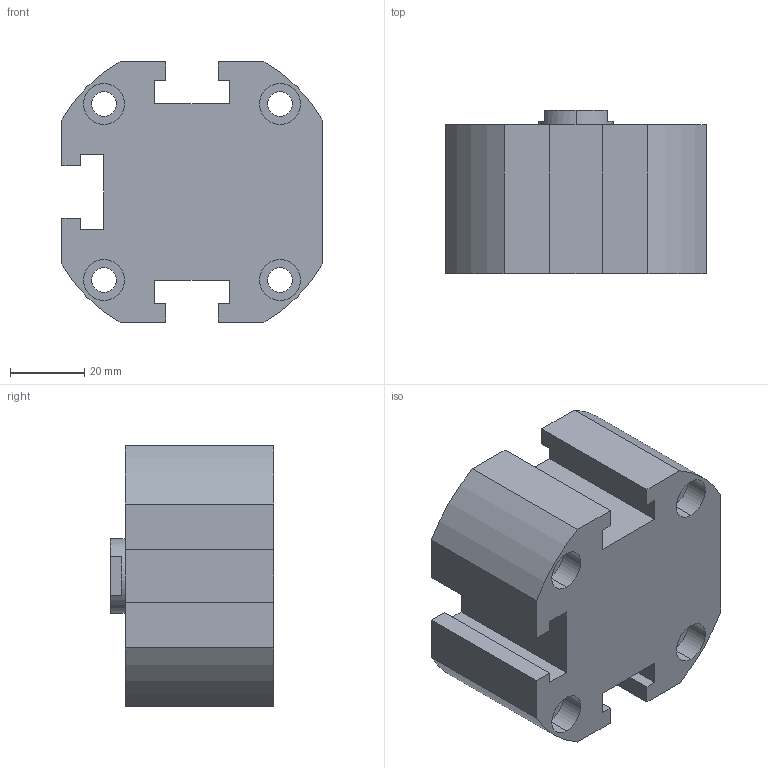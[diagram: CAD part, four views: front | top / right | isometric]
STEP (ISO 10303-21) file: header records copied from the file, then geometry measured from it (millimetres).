
FILE_DESCRIPTION (( 'STEP AP203' ), '1' );
FILE_NAME ('XC#2-50-10.STEP', '2016-05-23T08:10:59', ( '' ), ( '' ), 'SwSTEP 2.0', 'SolidWorks 2014', '' );
FILE_SCHEMA (( 'CONFIG_CONTROL_DESIGN' ));
Length unit declared in the file: millimetre
Products named in the file (1): XC#2-50-10
Bounding box: 70 x 44 x 70 mm (x, y, z)
Volume: 145859.5 mm3; surface area: 27314.7 mm2
Topology: 1 solids, 1 shells, 114 faces, 283 edges, 183 vertices
Faces by surface type: cylinder 54, plane 50, cone 10
Entity records: 3474 total; most frequent: DIRECTION 627, CARTESIAN_POINT 575, ORIENTED_EDGE 554, EDGE_CURVE 277, AXIS2_PLACEMENT_3D 235, VERTEX_POINT 183, LINE 157, VECTOR 157
